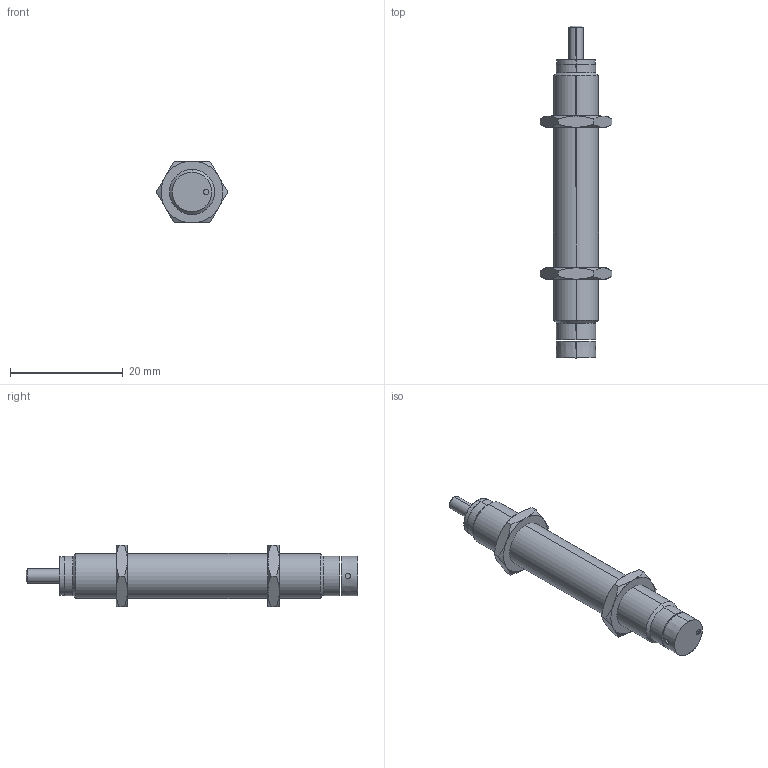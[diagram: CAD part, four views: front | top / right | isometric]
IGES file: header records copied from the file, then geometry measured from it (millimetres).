
Start section: SolidWorks IGES file using analytic representation for surfaces
Bounding box: 12.7 x 59 x 11 mm (x, y, z)
Surface area: 2075.9 mm2 (no closed solid volume)
Topology: 0 solids, 0 shells, 75 faces, 1232 edges, 1232 vertices
Faces by surface type: revolution 50, bspline 25
